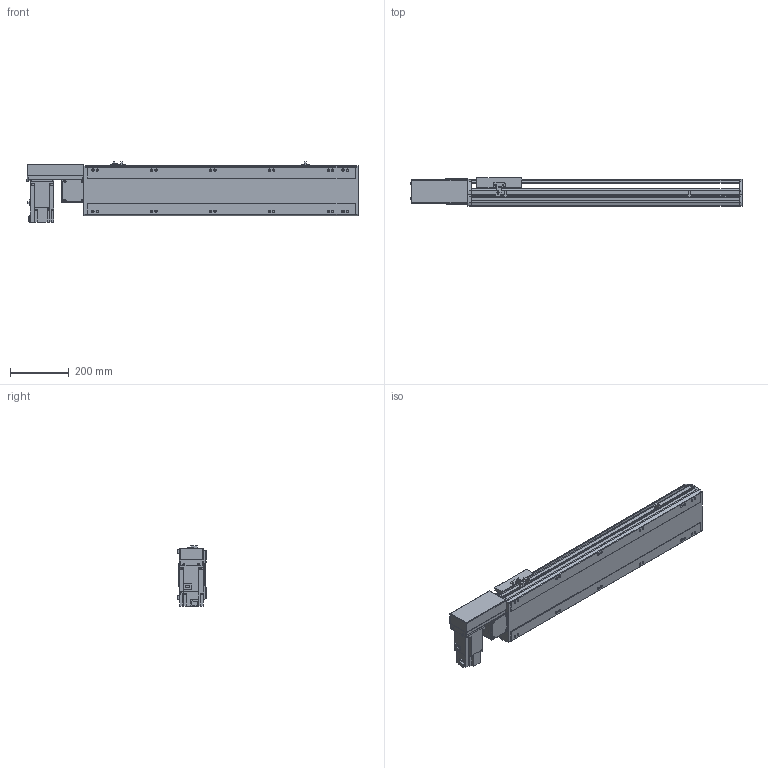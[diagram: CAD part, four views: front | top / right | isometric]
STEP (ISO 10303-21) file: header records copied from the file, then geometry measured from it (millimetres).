
FILE_DESCRIPTION( ( 'STEP AP214' ), '1' );
FILE_NAME( 'x:/temp/worker_4/temp/exporttempdir_2248_258_byTnG/format_0/PBS170-P40-S650-R-T75-C1-N(0).stp', '2022-06-07T07:29:27', ( 'License CC BY-ND 4.0' ), ( 'CADENAS' ), ' ', 'PARTsolutions', ' ' );
FILE_SCHEMA( ( 'AUTOMOTIVE_DESIGN { 1 0 10303 214 1 1 1 1 }' ) );
Length unit declared in the file: millimetre
Products named in the file (7): PBS170-P40-S650-R-T75-C1-N(0); _PBS170-S650()_body; _PBS170T-R_motors; _T75-p1; _PBS170_sliser; _PBS170_plant; _PBS170_sensor
Assembly tree (8 placements, depth 2):
  PBS170-P40-S650-R-T75-C1-N(0)
    _PBS170-S650()_body
    _PBS170T-R_motors
    _T75-p1
    _PBS170_sliser
    _PBS170_plant
    _PBS170_sensor  x3
Bounding box: 1128 x 97 x 205.3 mm (x, y, z)
Volume: 8493827.7 mm3; surface area: 1140360.9 mm2
Topology: 8 solids, 8 shells, 1050 faces, 2795 edges, 1822 vertices
Faces by surface type: plane 675, cylinder 323, cone 42, sphere 8, torus 2
Full cylindrical faces by diameter (mm): 3.242 x4, 4 x2, 4.4 x4, 4.5 x6, 4.917 x4, 6 x9, 6.647 x20, 7 x2, 7.5 x4, 8 x8, 8.5 x12, 10 x4, 10.5 x12, 11 x2, 30 x2, 40 x1, 70 x1
Entity records: 38456 total; most frequent: CARTESIAN_POINT 5885, DIRECTION 5160, ORIENTED_EDGE 4908, EDGE_CURVE 2454, AXIS2_PLACEMENT_3D 1777, VERTEX_POINT 1682, LINE 1606, VECTOR 1606
